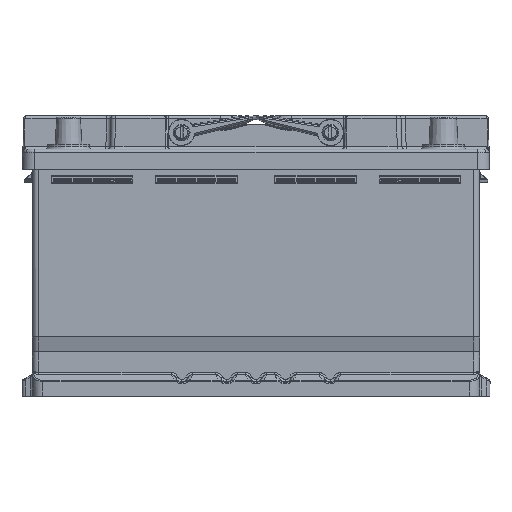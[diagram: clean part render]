
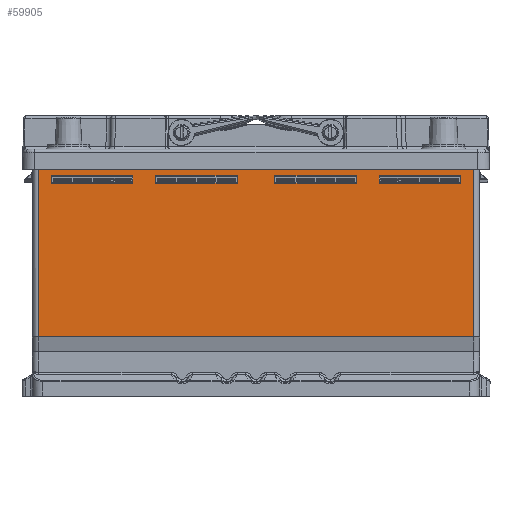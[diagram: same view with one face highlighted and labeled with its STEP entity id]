
A CAD part, front view. The second image highlights one B-rep face of the part: STEP entity #59905.
In plain terms, the highlighted planar face has unit normal (0, -1, 0).
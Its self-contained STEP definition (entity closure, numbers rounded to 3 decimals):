
#45176=CARTESIAN_POINT('Vertex',(-146.2,-83.05,161.)) ;
#45179=CARTESIAN_POINT('Line Origine',(0.,-83.05,161.)) ;
#45183=CARTESIAN_POINT('Vertex',(146.2,-83.05,161.)) ;
#59724=CARTESIAN_POINT('Line Origine',(-146.2,-83.05,166.)) ;
#59728=CARTESIAN_POINT('Vertex',(-146.2,-83.05,40.)) ;
#59746=CARTESIAN_POINT('Axis2P3D Location',(-150.2,-83.05,40.)) ;
#59751=CARTESIAN_POINT('Line Origine',(0.,-83.05,40.)) ;
#59755=CARTESIAN_POINT('Vertex',(146.2,-83.05,40.)) ;
#59758=CARTESIAN_POINT('Line Origine',(146.2,-83.05,100.5)) ;
#59769=CARTESIAN_POINT('Line Origine',(82.75,-83.05,145.522)) ;
#59773=CARTESIAN_POINT('Vertex',(82.75,-83.05,143.)) ;
#59775=CARTESIAN_POINT('Vertex',(82.75,-83.05,148.044)) ;
#59778=CARTESIAN_POINT('Line Origine',(110.,-83.05,148.044)) ;
#59782=CARTESIAN_POINT('Vertex',(137.25,-83.05,148.044)) ;
#59785=CARTESIAN_POINT('Line Origine',(137.25,-83.05,145.522)) ;
#59789=CARTESIAN_POINT('Vertex',(137.25,-83.05,143.)) ;
#59792=CARTESIAN_POINT('Line Origine',(110.,-83.05,143.)) ;
#59803=CARTESIAN_POINT('Line Origine',(12.75,-83.05,145.522)) ;
#59807=CARTESIAN_POINT('Vertex',(12.75,-83.05,143.)) ;
#59809=CARTESIAN_POINT('Vertex',(12.75,-83.05,148.044)) ;
#59812=CARTESIAN_POINT('Line Origine',(40.,-83.05,148.044)) ;
#59816=CARTESIAN_POINT('Vertex',(67.25,-83.05,148.044)) ;
#59819=CARTESIAN_POINT('Line Origine',(67.25,-83.05,145.522)) ;
#59823=CARTESIAN_POINT('Vertex',(67.25,-83.05,143.)) ;
#59826=CARTESIAN_POINT('Line Origine',(40.,-83.05,143.)) ;
#59837=CARTESIAN_POINT('Line Origine',(-82.75,-83.05,145.522)) ;
#59841=CARTESIAN_POINT('Vertex',(-82.75,-83.05,143.)) ;
#59843=CARTESIAN_POINT('Vertex',(-82.75,-83.05,148.044)) ;
#59846=CARTESIAN_POINT('Line Origine',(-110.,-83.05,143.)) ;
#59850=CARTESIAN_POINT('Vertex',(-137.25,-83.05,143.)) ;
#59853=CARTESIAN_POINT('Line Origine',(-137.25,-83.05,145.522)) ;
#59857=CARTESIAN_POINT('Vertex',(-137.25,-83.05,148.044)) ;
#59860=CARTESIAN_POINT('Line Origine',(-110.,-83.05,148.044)) ;
#59871=CARTESIAN_POINT('Line Origine',(-12.75,-83.05,145.522)) ;
#59875=CARTESIAN_POINT('Vertex',(-12.75,-83.05,143.)) ;
#59877=CARTESIAN_POINT('Vertex',(-12.75,-83.05,148.044)) ;
#59880=CARTESIAN_POINT('Line Origine',(-40.,-83.05,143.)) ;
#59884=CARTESIAN_POINT('Vertex',(-67.25,-83.05,143.)) ;
#59887=CARTESIAN_POINT('Line Origine',(-67.25,-83.05,145.522)) ;
#59891=CARTESIAN_POINT('Vertex',(-67.25,-83.05,148.044)) ;
#59894=CARTESIAN_POINT('Line Origine',(-40.,-83.05,148.044)) ;
#45180=DIRECTION('Vector Direction',(1.,0.,0.)) ;
#59725=DIRECTION('Vector Direction',(0.,0.,-1.)) ;
#59747=DIRECTION('Axis2P3D Direction',(0.,1.,-0.)) ;
#59748=DIRECTION('Axis2P3D XDirection',(-1.,0.,0.)) ;
#59752=DIRECTION('Vector Direction',(1.,0.,0.)) ;
#59759=DIRECTION('Vector Direction',(0.,0.,-1.)) ;
#59770=DIRECTION('Vector Direction',(0.,0.,1.)) ;
#59779=DIRECTION('Vector Direction',(-1.,0.,0.)) ;
#59786=DIRECTION('Vector Direction',(0.,0.,-1.)) ;
#59793=DIRECTION('Vector Direction',(1.,0.,0.)) ;
#59804=DIRECTION('Vector Direction',(0.,0.,1.)) ;
#59813=DIRECTION('Vector Direction',(-1.,0.,0.)) ;
#59820=DIRECTION('Vector Direction',(0.,0.,-1.)) ;
#59827=DIRECTION('Vector Direction',(1.,0.,0.)) ;
#59838=DIRECTION('Vector Direction',(0.,0.,1.)) ;
#59847=DIRECTION('Vector Direction',(-1.,0.,0.)) ;
#59854=DIRECTION('Vector Direction',(0.,0.,-1.)) ;
#59861=DIRECTION('Vector Direction',(1.,0.,0.)) ;
#59872=DIRECTION('Vector Direction',(0.,0.,1.)) ;
#59881=DIRECTION('Vector Direction',(-1.,0.,0.)) ;
#59888=DIRECTION('Vector Direction',(0.,0.,-1.)) ;
#59895=DIRECTION('Vector Direction',(1.,0.,0.)) ;
#59749=AXIS2_PLACEMENT_3D('Plane Axis2P3D',#59746,#59747,#59748) ;
#59764=ORIENTED_EDGE('',*,*,#45185,.F.) ;
#59765=ORIENTED_EDGE('',*,*,#59730,.T.) ;
#59766=ORIENTED_EDGE('',*,*,#59757,.T.) ;
#59767=ORIENTED_EDGE('',*,*,#59762,.F.) ;
#59798=ORIENTED_EDGE('',*,*,#59777,.T.) ;
#59799=ORIENTED_EDGE('',*,*,#59784,.F.) ;
#59800=ORIENTED_EDGE('',*,*,#59791,.T.) ;
#59801=ORIENTED_EDGE('',*,*,#59796,.F.) ;
#59832=ORIENTED_EDGE('',*,*,#59811,.T.) ;
#59833=ORIENTED_EDGE('',*,*,#59818,.F.) ;
#59834=ORIENTED_EDGE('',*,*,#59825,.T.) ;
#59835=ORIENTED_EDGE('',*,*,#59830,.F.) ;
#59866=ORIENTED_EDGE('',*,*,#59845,.F.) ;
#59867=ORIENTED_EDGE('',*,*,#59852,.T.) ;
#59868=ORIENTED_EDGE('',*,*,#59859,.F.) ;
#59869=ORIENTED_EDGE('',*,*,#59864,.T.) ;
#59900=ORIENTED_EDGE('',*,*,#59879,.F.) ;
#59901=ORIENTED_EDGE('',*,*,#59886,.T.) ;
#59902=ORIENTED_EDGE('',*,*,#59893,.F.) ;
#59903=ORIENTED_EDGE('',*,*,#59898,.T.) ;
#59802=FACE_BOUND('',#59797,.T.) ;
#59836=FACE_BOUND('',#59831,.T.) ;
#59870=FACE_BOUND('',#59865,.T.) ;
#59904=FACE_BOUND('',#59899,.T.) ;
#45181=VECTOR('Line Direction',#45180,1.) ;
#59726=VECTOR('Line Direction',#59725,1.) ;
#59753=VECTOR('Line Direction',#59752,1.) ;
#59760=VECTOR('Line Direction',#59759,1.) ;
#59771=VECTOR('Line Direction',#59770,1.) ;
#59780=VECTOR('Line Direction',#59779,1.) ;
#59787=VECTOR('Line Direction',#59786,1.) ;
#59794=VECTOR('Line Direction',#59793,1.) ;
#59805=VECTOR('Line Direction',#59804,1.) ;
#59814=VECTOR('Line Direction',#59813,1.) ;
#59821=VECTOR('Line Direction',#59820,1.) ;
#59828=VECTOR('Line Direction',#59827,1.) ;
#59839=VECTOR('Line Direction',#59838,1.) ;
#59848=VECTOR('Line Direction',#59847,1.) ;
#59855=VECTOR('Line Direction',#59854,1.) ;
#59862=VECTOR('Line Direction',#59861,1.) ;
#59873=VECTOR('Line Direction',#59872,1.) ;
#59882=VECTOR('Line Direction',#59881,1.) ;
#59889=VECTOR('Line Direction',#59888,1.) ;
#59896=VECTOR('Line Direction',#59895,1.) ;
#59905=ADVANCED_FACE('BATTERY DIMENSION AGM LN4 H7',(#59768,#59802,#59836,#59870,#59904),#59750,.F.) ;
#45185=EDGE_CURVE('',#45177,#45184,#45182,.T.) ;
#59730=EDGE_CURVE('',#45177,#59729,#59727,.T.) ;
#59757=EDGE_CURVE('',#59729,#59756,#59754,.T.) ;
#59762=EDGE_CURVE('',#45184,#59756,#59761,.T.) ;
#59777=EDGE_CURVE('',#59774,#59776,#59772,.T.) ;
#59784=EDGE_CURVE('',#59783,#59776,#59781,.T.) ;
#59791=EDGE_CURVE('',#59783,#59790,#59788,.T.) ;
#59796=EDGE_CURVE('',#59774,#59790,#59795,.T.) ;
#59811=EDGE_CURVE('',#59808,#59810,#59806,.T.) ;
#59818=EDGE_CURVE('',#59817,#59810,#59815,.T.) ;
#59825=EDGE_CURVE('',#59817,#59824,#59822,.T.) ;
#59830=EDGE_CURVE('',#59808,#59824,#59829,.T.) ;
#59845=EDGE_CURVE('',#59842,#59844,#59840,.T.) ;
#59852=EDGE_CURVE('',#59842,#59851,#59849,.T.) ;
#59859=EDGE_CURVE('',#59858,#59851,#59856,.T.) ;
#59864=EDGE_CURVE('',#59858,#59844,#59863,.T.) ;
#59879=EDGE_CURVE('',#59876,#59878,#59874,.T.) ;
#59886=EDGE_CURVE('',#59876,#59885,#59883,.T.) ;
#59893=EDGE_CURVE('',#59892,#59885,#59890,.T.) ;
#59898=EDGE_CURVE('',#59892,#59878,#59897,.T.) ;
#59763=EDGE_LOOP('',(#59764,#59765,#59766,#59767)) ;
#59797=EDGE_LOOP('',(#59798,#59799,#59800,#59801)) ;
#59831=EDGE_LOOP('',(#59832,#59833,#59834,#59835)) ;
#59865=EDGE_LOOP('',(#59866,#59867,#59868,#59869)) ;
#59899=EDGE_LOOP('',(#59900,#59901,#59902,#59903)) ;
#59768=FACE_OUTER_BOUND('',#59763,.T.) ;
#45182=LINE('Line',#45179,#45181) ;
#59727=LINE('Line',#59724,#59726) ;
#59754=LINE('Line',#59751,#59753) ;
#59761=LINE('Line',#59758,#59760) ;
#59772=LINE('Line',#59769,#59771) ;
#59781=LINE('Line',#59778,#59780) ;
#59788=LINE('Line',#59785,#59787) ;
#59795=LINE('Line',#59792,#59794) ;
#59806=LINE('Line',#59803,#59805) ;
#59815=LINE('Line',#59812,#59814) ;
#59822=LINE('Line',#59819,#59821) ;
#59829=LINE('Line',#59826,#59828) ;
#59840=LINE('Line',#59837,#59839) ;
#59849=LINE('Line',#59846,#59848) ;
#59856=LINE('Line',#59853,#59855) ;
#59863=LINE('Line',#59860,#59862) ;
#59874=LINE('Line',#59871,#59873) ;
#59883=LINE('Line',#59880,#59882) ;
#59890=LINE('Line',#59887,#59889) ;
#59897=LINE('Line',#59894,#59896) ;
#59750=PLANE('Plane',#59749) ;
#45177=VERTEX_POINT('',#45176) ;
#45184=VERTEX_POINT('',#45183) ;
#59729=VERTEX_POINT('',#59728) ;
#59756=VERTEX_POINT('',#59755) ;
#59774=VERTEX_POINT('',#59773) ;
#59776=VERTEX_POINT('',#59775) ;
#59783=VERTEX_POINT('',#59782) ;
#59790=VERTEX_POINT('',#59789) ;
#59808=VERTEX_POINT('',#59807) ;
#59810=VERTEX_POINT('',#59809) ;
#59817=VERTEX_POINT('',#59816) ;
#59824=VERTEX_POINT('',#59823) ;
#59842=VERTEX_POINT('',#59841) ;
#59844=VERTEX_POINT('',#59843) ;
#59851=VERTEX_POINT('',#59850) ;
#59858=VERTEX_POINT('',#59857) ;
#59876=VERTEX_POINT('',#59875) ;
#59878=VERTEX_POINT('',#59877) ;
#59885=VERTEX_POINT('',#59884) ;
#59892=VERTEX_POINT('',#59891) ;
